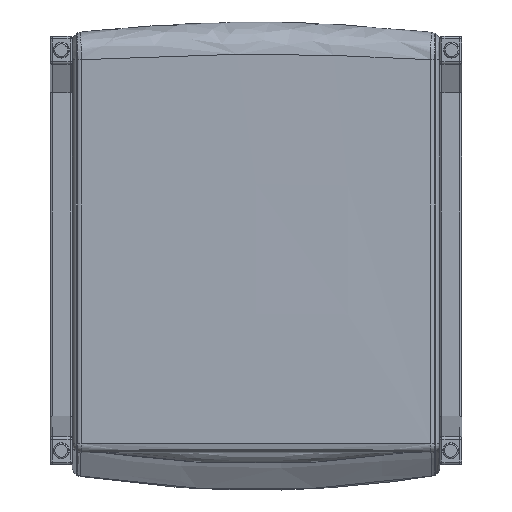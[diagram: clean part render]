
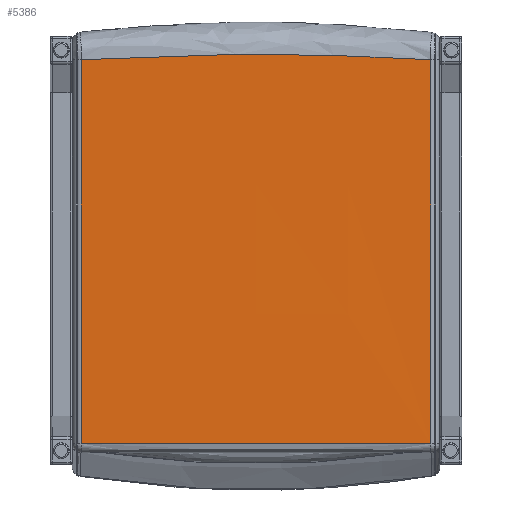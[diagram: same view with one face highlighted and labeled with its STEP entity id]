
A CAD part, front view. The second image highlights one B-rep face of the part: STEP entity #5386.
In plain terms, the highlighted free-form (B-spline) face has degree [3, 3] with [4, 11] control points.
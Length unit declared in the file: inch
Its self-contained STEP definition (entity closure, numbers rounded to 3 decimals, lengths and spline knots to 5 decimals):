
#44=B_SPLINE_SURFACE_WITH_KNOTS('',3,3,((#11071,#11072,#11073,#11074,#11075,
#11076,#11077,#11078,#11079,#11080,#11081),(#11082,#11083,#11084,#11085,
#11086,#11087,#11088,#11089,#11090,#11091,#11092),(#11093,#11094,#11095,
#11096,#11097,#11098,#11099,#11100,#11101,#11102,#11103),(#11104,#11105,
#11106,#11107,#11108,#11109,#11110,#11111,#11112,#11113,#11114)),
 .UNSPECIFIED.,.F.,.F.,.F.,(4,4),(4,1,1,1,1,1,1,1,4),(0.,0.9753),
(0.02541,0.12523,0.25027,0.37517,
0.5,0.62483,0.74973,0.87477,0.97459),
 .UNSPECIFIED.);
#265=B_SPLINE_CURVE_WITH_KNOTS('',3,(#9468,#9469,#9470,#9471),
 .UNSPECIFIED.,.F.,.F.,(4,4),(-51.67474,0.),
 .UNSPECIFIED.);
#290=B_SPLINE_CURVE_WITH_KNOTS('',3,(#10673,#10674,#10675,#10676,#10677,
#10678,#10679,#10680,#10681,#10682,#10683),.UNSPECIFIED.,.F.,.F.,(4,1,1,
1,1,1,1,1,4),(1.27098,6.20678,12.40415,18.59475,
24.78167,30.9686,37.1592,43.35657,48.29236),
 .UNSPECIFIED.);
#294=B_SPLINE_CURVE_WITH_KNOTS('',3,(#11067,#11068,#11069,#11070),
 .UNSPECIFIED.,.F.,.F.,(4,4),(1.27096,1.27098),
 .UNSPECIFIED.);
#295=B_SPLINE_CURVE_WITH_KNOTS('',3,(#11116,#11117,#11118,#11119),
 .UNSPECIFIED.,.F.,.F.,(4,4),(0.,51.67474),
 .UNSPECIFIED.);
#296=B_SPLINE_CURVE_WITH_KNOTS('',3,(#11120,#11121,#11122,#11123),
 .UNSPECIFIED.,.F.,.F.,(4,4),(48.29236,48.29239),
 .UNSPECIFIED.);
#297=B_SPLINE_CURVE_WITH_KNOTS('',3,(#11124,#11125,#11126,#11127,#11128,
#11129,#11130,#11131,#11132,#11133,#11134,#11135),.UNSPECIFIED.,.F.,.F.,
(4,1,1,1,2,1,1,1,4),(-48.24856,-43.30644,-37.11603,
-30.93267,-24.7532,-18.57373,-12.39037,
-6.19996,-1.25784),.UNSPECIFIED.);
#758=FACE_OUTER_BOUND('',#1121,.T.);
#1121=EDGE_LOOP('',(#4424,#4425,#4426,#4427,#4428,#4429));
#2383=VERTEX_POINT('',#9465);
#2384=VERTEX_POINT('',#9467);
#2404=VERTEX_POINT('',#9949);
#2406=VERTEX_POINT('',#10482);
#2415=VERTEX_POINT('',#10660);
#2416=VERTEX_POINT('',#11115);
#3062=EDGE_CURVE('',#2383,#2384,#265,.T.);
#3105=EDGE_CURVE('',#2415,#2406,#290,.T.);
#3110=EDGE_CURVE('',#2384,#2415,#294,.T.);
#3111=EDGE_CURVE('',#2416,#2404,#295,.T.);
#3112=EDGE_CURVE('',#2406,#2416,#296,.T.);
#3113=EDGE_CURVE('',#2404,#2383,#297,.T.);
#4424=ORIENTED_EDGE('',*,*,#3111,.F.);
#4425=ORIENTED_EDGE('',*,*,#3112,.F.);
#4426=ORIENTED_EDGE('',*,*,#3105,.F.);
#4427=ORIENTED_EDGE('',*,*,#3110,.F.);
#4428=ORIENTED_EDGE('',*,*,#3062,.F.);
#4429=ORIENTED_EDGE('',*,*,#3113,.F.);
#5386=ADVANCED_FACE('',(#758),#44,.T.);
#9465=CARTESIAN_POINT('',(1.99541,14.12034,1.13968));
#9467=CARTESIAN_POINT('',(1.99956,14.12416,21.48414));
#9468=CARTESIAN_POINT('Ctrl Pts',(1.99541,14.12034,1.13968));
#9469=CARTESIAN_POINT('Ctrl Pts',(1.99658,14.12147,7.92111));
#9470=CARTESIAN_POINT('Ctrl Pts',(1.99751,14.122,14.7026));
#9471=CARTESIAN_POINT('Ctrl Pts',(1.99956,14.12416,21.48414));
#9949=CARTESIAN_POINT('',(20.50459,14.12034,1.13968));
#10482=CARTESIAN_POINT('',(20.50043,14.12416,21.48414));
#10660=CARTESIAN_POINT('',(1.99957,14.12416,21.48414));
#10673=CARTESIAN_POINT('Ctrl Pts',(1.99957,14.12416,21.48414));
#10674=CARTESIAN_POINT('Ctrl Pts',(2.64626,14.12361,21.52112));
#10675=CARTESIAN_POINT('Ctrl Pts',(4.10499,14.12651,21.60376));
#10676=CARTESIAN_POINT('Ctrl Pts',(6.37676,14.12514,21.69445));
#10677=CARTESIAN_POINT('Ctrl Pts',(8.81368,14.1252,21.75733));
#10678=CARTESIAN_POINT('Ctrl Pts',(11.25,14.1249,21.77851));
#10679=CARTESIAN_POINT('Ctrl Pts',(13.68632,14.1252,21.75733));
#10680=CARTESIAN_POINT('Ctrl Pts',(16.12324,14.12514,21.69445));
#10681=CARTESIAN_POINT('Ctrl Pts',(18.39501,14.12651,21.60376));
#10682=CARTESIAN_POINT('Ctrl Pts',(19.85374,14.12361,21.52112));
#10683=CARTESIAN_POINT('Ctrl Pts',(20.50043,14.12416,21.48414));
#11067=CARTESIAN_POINT('Ctrl Pts',(1.99956,14.12416,21.48414));
#11068=CARTESIAN_POINT('Ctrl Pts',(1.99957,14.12416,21.48414));
#11069=CARTESIAN_POINT('Ctrl Pts',(1.99957,14.12416,21.48414));
#11070=CARTESIAN_POINT('Ctrl Pts',(1.99957,14.12416,21.48414));
#11071=CARTESIAN_POINT('Ctrl Pts',(1.99495,14.12417,21.48388));
#11072=CARTESIAN_POINT('Ctrl Pts',(2.64318,14.1236,21.52095));
#11073=CARTESIAN_POINT('Ctrl Pts',(4.10345,14.12651,21.6037));
#11074=CARTESIAN_POINT('Ctrl Pts',(6.37676,14.12514,21.69445));
#11075=CARTESIAN_POINT('Ctrl Pts',(8.81368,14.1252,21.75733));
#11076=CARTESIAN_POINT('Ctrl Pts',(11.25,14.1249,21.77851));
#11077=CARTESIAN_POINT('Ctrl Pts',(13.68632,14.1252,21.75733));
#11078=CARTESIAN_POINT('Ctrl Pts',(16.12324,14.12514,21.69445));
#11079=CARTESIAN_POINT('Ctrl Pts',(18.39655,14.12651,21.6037));
#11080=CARTESIAN_POINT('Ctrl Pts',(19.85682,14.1236,21.52095));
#11081=CARTESIAN_POINT('Ctrl Pts',(20.50505,14.12417,21.48388));
#11082=CARTESIAN_POINT('Ctrl Pts',(1.99447,14.12202,14.67261));
#11083=CARTESIAN_POINT('Ctrl Pts',(2.64212,14.11877,14.66589));
#11084=CARTESIAN_POINT('Ctrl Pts',(4.10188,14.11676,14.68516));
#11085=CARTESIAN_POINT('Ctrl Pts',(6.37554,14.11095,14.76377));
#11086=CARTESIAN_POINT('Ctrl Pts',(8.81375,14.10903,14.86234));
#11087=CARTESIAN_POINT('Ctrl Pts',(11.25,14.10843,14.91351));
#11088=CARTESIAN_POINT('Ctrl Pts',(13.68625,14.10903,14.86234));
#11089=CARTESIAN_POINT('Ctrl Pts',(16.12446,14.11095,14.76377));
#11090=CARTESIAN_POINT('Ctrl Pts',(18.39812,14.11676,14.68516));
#11091=CARTESIAN_POINT('Ctrl Pts',(19.85788,14.11877,14.66589));
#11092=CARTESIAN_POINT('Ctrl Pts',(20.50553,14.12202,14.67261));
#11093=CARTESIAN_POINT('Ctrl Pts',(1.99524,14.12148,7.91496));
#11094=CARTESIAN_POINT('Ctrl Pts',(2.64386,14.11704,7.92653));
#11095=CARTESIAN_POINT('Ctrl Pts',(4.10509,14.10855,7.95251));
#11096=CARTESIAN_POINT('Ctrl Pts',(6.37848,14.0991,7.98761));
#11097=CARTESIAN_POINT('Ctrl Pts',(8.81479,14.09339,8.0144));
#11098=CARTESIAN_POINT('Ctrl Pts',(11.25,14.09168,8.02499));
#11099=CARTESIAN_POINT('Ctrl Pts',(13.68521,14.09339,8.0144));
#11100=CARTESIAN_POINT('Ctrl Pts',(16.12152,14.0991,7.98761));
#11101=CARTESIAN_POINT('Ctrl Pts',(18.39491,14.10855,7.95251));
#11102=CARTESIAN_POINT('Ctrl Pts',(19.85614,14.11704,7.92653));
#11103=CARTESIAN_POINT('Ctrl Pts',(20.50476,14.12148,7.91496));
#11104=CARTESIAN_POINT('Ctrl Pts',(1.99541,14.12034,1.13272));
#11105=CARTESIAN_POINT('Ctrl Pts',(2.64424,14.11439,1.13442));
#11106=CARTESIAN_POINT('Ctrl Pts',(4.10583,14.10223,1.13802));
#11107=CARTESIAN_POINT('Ctrl Pts',(6.37929,14.08778,1.14252));
#11108=CARTESIAN_POINT('Ctrl Pts',(8.81532,14.0781,1.1457));
#11109=CARTESIAN_POINT('Ctrl Pts',(11.25,14.07477,1.14686));
#11110=CARTESIAN_POINT('Ctrl Pts',(13.68468,14.0781,1.1457));
#11111=CARTESIAN_POINT('Ctrl Pts',(16.12071,14.08778,1.14252));
#11112=CARTESIAN_POINT('Ctrl Pts',(18.39417,14.10223,1.13802));
#11113=CARTESIAN_POINT('Ctrl Pts',(19.85576,14.11439,1.13442));
#11114=CARTESIAN_POINT('Ctrl Pts',(20.50459,14.12034,1.13272));
#11115=CARTESIAN_POINT('',(20.50044,14.12416,21.48414));
#11116=CARTESIAN_POINT('Ctrl Pts',(20.50044,14.12416,21.48414));
#11117=CARTESIAN_POINT('Ctrl Pts',(20.50249,14.122,14.7026));
#11118=CARTESIAN_POINT('Ctrl Pts',(20.50342,14.12147,7.92111));
#11119=CARTESIAN_POINT('Ctrl Pts',(20.50459,14.12034,1.13968));
#11120=CARTESIAN_POINT('Ctrl Pts',(20.50043,14.12416,21.48414));
#11121=CARTESIAN_POINT('Ctrl Pts',(20.50043,14.12416,21.48414));
#11122=CARTESIAN_POINT('Ctrl Pts',(20.50043,14.12416,21.48414));
#11123=CARTESIAN_POINT('Ctrl Pts',(20.50044,14.12416,21.48414));
#11124=CARTESIAN_POINT('Ctrl Pts',(20.50459,14.12034,1.13968));
#11125=CARTESIAN_POINT('Ctrl Pts',(19.85576,14.11439,1.14052));
#11126=CARTESIAN_POINT('Ctrl Pts',(18.3942,14.10223,1.14232));
#11127=CARTESIAN_POINT('Ctrl Pts',(16.12077,14.08779,1.14454));
#11128=CARTESIAN_POINT('Ctrl Pts',(13.68473,14.0781,1.1461));
#11129=CARTESIAN_POINT('Ctrl Pts',(12.06141,14.07588,1.14647));
#11130=CARTESIAN_POINT('Ctrl Pts',(10.43859,14.07588,1.14647));
#11131=CARTESIAN_POINT('Ctrl Pts',(8.81527,14.0781,1.1461));
#11132=CARTESIAN_POINT('Ctrl Pts',(6.37923,14.08779,1.14454));
#11133=CARTESIAN_POINT('Ctrl Pts',(4.1058,14.10223,1.14232));
#11134=CARTESIAN_POINT('Ctrl Pts',(2.64424,14.11439,1.14052));
#11135=CARTESIAN_POINT('Ctrl Pts',(1.99541,14.12034,1.13968));
